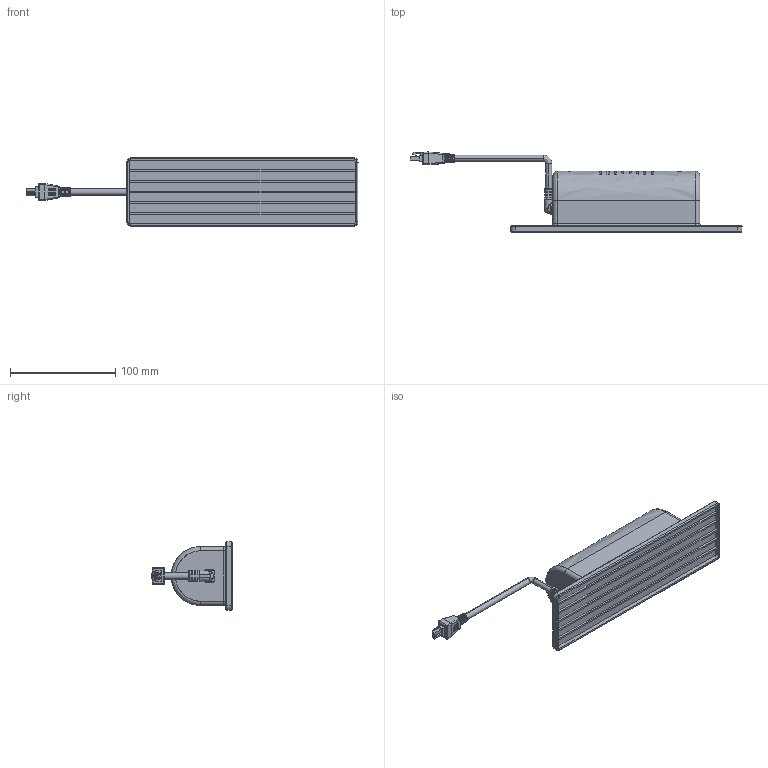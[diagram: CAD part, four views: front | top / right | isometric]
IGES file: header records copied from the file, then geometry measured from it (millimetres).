
Start section: SolidWorks IGES file using NURBS representation for surfaces
Global section: file name: C:\Users\lynn\Desktop\VM02.IGS; native system: SolidWorks 2015; preprocessor: SolidWorks 2015; author: lynn; date: 200217.104331; units: millimetre
Bounding box: 316 x 76.5 x 65 mm (x, y, z)
Surface area: 106752.7 mm2 (no closed solid volume)
Topology: 0 solids, 0 shells, 800 faces, 8549 edges, 8536 vertices
Faces by surface type: bspline 800
